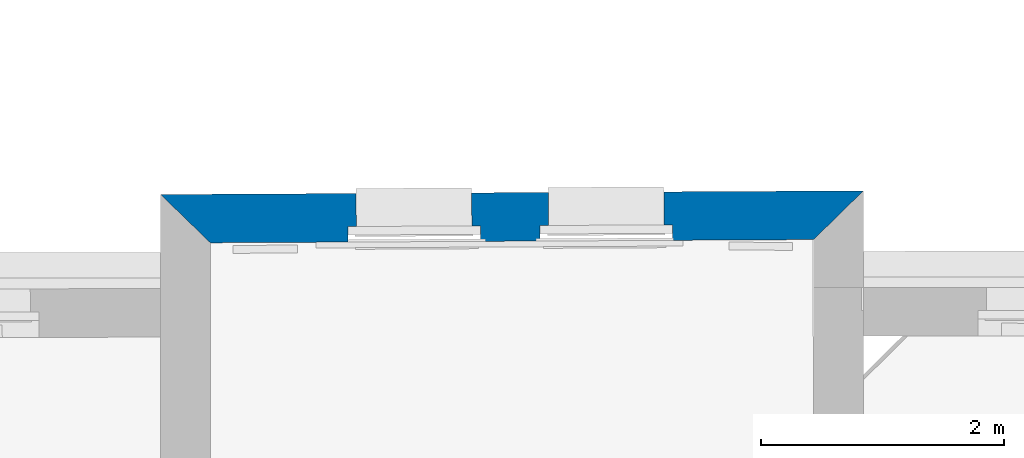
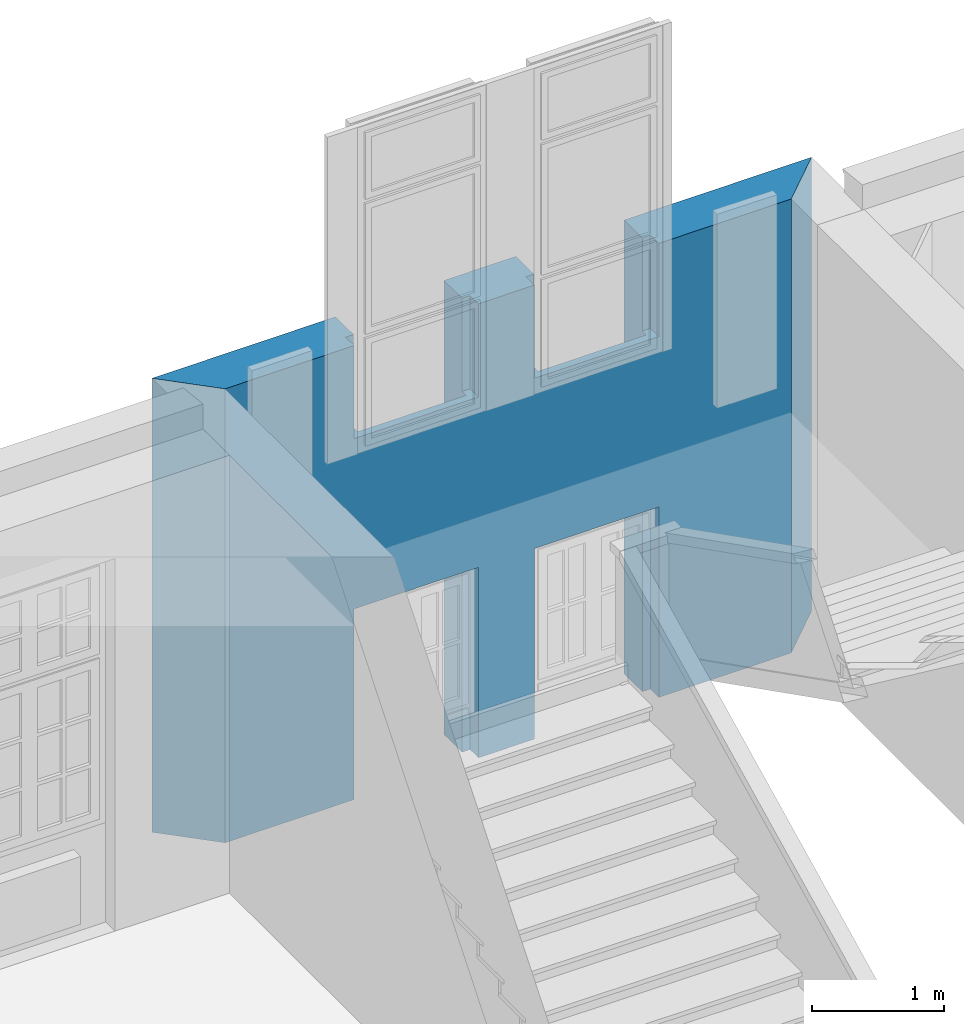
# One storey, part 19 of 90: 1 wall, 6 openings.
"""IFC2X3 building model written with IfcOpenShell, lengths in metres."""

from ifc_helpers import new_model, entity, si_unit, converted_unit, derived_unit, money_unit, direction, frame, origin_with_axes, origin_2d_with_axis, place, context, subcontext, project, spatial, polyline, rectangle, outline, extrude, material, layer, layer_set, layer_usage, type_object, element, save


model = new_model("IFC2X3")

# Units and contexts
model_context = context("Model", 3, precision=1e-05, world=origin_with_axes(), true_north=direction((0.0, 1.0)))
body_context = subcontext(model_context, "Body", "Model", "MODEL_VIEW")
ifc_project = project(units=[si_unit("LENGTHUNIT", "METRE"), si_unit("AREAUNIT", "SQUARE_METRE"), si_unit("VOLUMEUNIT", "CUBIC_METRE"), converted_unit("PLANEANGLEUNIT", "DEGREE", entity("IfcPlaneAngleMeasure", 0.0174532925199), si_unit("PLANEANGLEUNIT", "RADIAN"), dimensions=[0, 0, 0, 0, 0, 0, 0]), money_unit("EUR"), converted_unit("TIMEUNIT", "Year", entity("IfcTimeMeasure", 31556926.0), si_unit("TIMEUNIT", "SECOND"), dimensions=[0, 0, 1, 0, 0, 0, 0]), si_unit("MASSUNIT", "GRAM", prefix="KILO"), si_unit("THERMODYNAMICTEMPERATUREUNIT", "DEGREE_CELSIUS"), si_unit("LUMINOUSINTENSITYUNIT", "LUMEN"), si_unit("ENERGYUNIT", "JOULE", prefix="MEGA"), derived_unit("THERMALCONDUCTANCEUNIT", [(si_unit("POWERUNIT", "WATT"), 1), (si_unit("LENGTHUNIT", "METRE"), -1), (si_unit("THERMODYNAMICTEMPERATUREUNIT", "KELVIN"), -1)]), derived_unit("SPECIFICHEATCAPACITYUNIT", [(si_unit("ENERGYUNIT", "JOULE"), 1), (si_unit("MASSUNIT", "GRAM", prefix="KILO"), -1), (si_unit("THERMODYNAMICTEMPERATUREUNIT", "KELVIN"), -1)]), derived_unit("MASSDENSITYUNIT", [(si_unit("MASSUNIT", "GRAM", prefix="KILO"), 1), (si_unit("VOLUMEUNIT", "CUBIC_METRE"), -1)])], contexts=[model_context])

# Site, building, storey
site_placement = place(None, origin_with_axes())
site = spatial("IfcSite", under=ifc_project, at=site_placement, Name="Gelände", CompositionType="ELEMENT")
building_placement = place(site_placement, origin_with_axes())
building = spatial("IfcBuilding", under=site, at=building_placement, Name="Gebäude", CompositionType="ELEMENT")
storey_placement = place(building_placement, frame((0.0, 0.0, 3.7), z_axis=(0.0, 0.0, 1.0), x_axis=(1.0, 0.0, 0.0)))
storey = spatial("IfcBuildingStorey", under=building, at=storey_placement, Name="1.OBERGESCHOSS", CompositionType="ELEMENT", Elevation=3.7)

# Wall, openings
ifc_material = material(Name="05_ALLGEMEIN - TRAGENDE BAUTEILE")
ifc_layer = layer(ifc_material, 0.4, ventilated="UNKNOWN")
ifc_layer_set = layer_set([ifc_layer], Name="05_ALLGEMEIN - TRAGENDE BAUTEILE 0.4")
ifc_layer_usage = layer_usage(ifc_layer_set, "AXIS2", "NEGATIVE", 0.4)
wall_type = type_object("IfcWallType", Name="05_ALLGEMEIN - TRAGENDE BAUTEILE 400", PredefinedType="ELEMENTEDWALL")
wall_placement = place(storey_placement, frame((-4.46199488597, 26.8591208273, -0.1), z_axis=(0.0, 0.0, 1.0), x_axis=(-0.999985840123, -0.00532161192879, 0.0)))
wall = element("IfcWallStandardCase", 1, at=wall_placement, inside=storey, type_object=wall_type, material=ifc_layer_usage, Name="Wand-030", ObjectType="ELEMENTEDWALL", context=body_context, shape_type="SweptSolid", body=[
    extrude(outline(polyline([(0.0, 0.0), (5.79028000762, 0.0), (5.38236542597, 0.4), (0.412311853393, 0.4), (0.0, 0.0)])), origin_with_axes(), (0.0, 0.0, 1.0), 4.2),
])
opening_1_placement = place(wall_placement, frame((2.12064882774, 0.0, -0.736811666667), z_axis=(0.0, 0.0, 1.0), x_axis=(1.0, 0.0, 0.0)))
element("IfcOpeningElement", 2, at=opening_1_placement, cuts=wall, Name="Fenster-015", context=body_context, shape_type="SweptSolid", body=[
    extrude(rectangle(XDim=0.951478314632, YDim=2.429223, at=origin_2d_with_axis()), frame((0.0, 0.271902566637, 1.2146115), z_axis=(0.0, 1.0, 0.0), x_axis=(1.0, 0.0, 0.0)), (0.0, 0.0, -1.0), 0.671902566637),
    extrude(rectangle(XDim=1.09147831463, YDim=2.499223, at=origin_2d_with_axis()), frame((0.0, 0.271902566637, 1.2496115), z_axis=(0.0, -1.0, 0.0), x_axis=(1.0, 0.0, 0.0)), (0.0, 0.0, -1.0), 0.528097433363),
    extrude(rectangle(XDim=0.951478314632, YDim=0.233945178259, at=origin_2d_with_axis()), frame((0.0, 0.332944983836, -0.116972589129), z_axis=(0.0, 1.0, 0.0), x_axis=(1.0, 0.0, 0.0)), (0.0, 0.0, -1.0), 0.461042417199),
])
opening_2_placement = place(wall_placement, frame((3.70345295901, 0.0, -0.736811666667), z_axis=(0.0, 0.0, 1.0), x_axis=(1.0, 0.0, 0.0)))
element("IfcOpeningElement", 3, at=opening_2_placement, cuts=wall, Name="Fenster-015", context=body_context, shape_type="SweptSolid", body=[
    extrude(rectangle(XDim=0.951478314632, YDim=2.429223, at=origin_2d_with_axis()), frame((0.0, 0.271902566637, 1.2146115), z_axis=(0.0, 1.0, 0.0), x_axis=(1.0, 0.0, 0.0)), (0.0, 0.0, -1.0), 0.671902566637),
    extrude(rectangle(XDim=1.09147831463, YDim=2.499223, at=origin_2d_with_axis()), frame((0.0, 0.271902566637, 1.2496115), z_axis=(0.0, -1.0, 0.0), x_axis=(1.0, 0.0, 0.0)), (0.0, 0.0, -1.0), 0.528097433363),
    extrude(rectangle(XDim=0.951478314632, YDim=0.233945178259, at=origin_2d_with_axis()), frame((0.0, 0.332944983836, -0.116972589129), z_axis=(0.0, 1.0, 0.0), x_axis=(1.0, 0.0, 0.0)), (0.0, 0.0, -1.0), 0.461042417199),
])
opening_3_placement = place(wall_placement, frame((2.12088798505, 0.0, 3.33786933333), z_axis=(0.0, 0.0, 1.0), x_axis=(1.0, 0.0, 0.0)))
element("IfcOpeningElement", 4, at=opening_3_placement, cuts=wall, Name="Fenster-015", context=body_context, shape_type="SweptSolid", body=[
    extrude(rectangle(XDim=0.951, YDim=2.808879, at=origin_2d_with_axis()), frame((0.0, 0.271902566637, 1.4044395), z_axis=(0.0, -1.0, 0.0), x_axis=(-1.0, 0.0, 0.0)), (0.0, 0.0, 1.0), 0.671902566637),
    extrude(rectangle(XDim=1.091, YDim=2.878879, at=origin_2d_with_axis()), frame((0.0, 0.271902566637, 1.4394395), z_axis=(0.0, 1.0, 0.0), x_axis=(-1.0, 0.0, 0.0)), (0.0, 0.0, 1.0), 0.528097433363),
    extrude(rectangle(XDim=0.951, YDim=0.233945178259, at=origin_2d_with_axis()), frame((0.0, 0.332944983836, -0.116972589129), z_axis=(0.0, -1.0, 0.0), x_axis=(-1.0, 0.0, 0.0)), (0.0, 0.0, 1.0), 0.461042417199),
])
opening_4_placement = place(wall_placement, frame((3.70369211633, 0.0, 3.33786933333), z_axis=(0.0, 0.0, 1.0), x_axis=(1.0, 0.0, 0.0)))
element("IfcOpeningElement", 5, at=opening_4_placement, cuts=wall, Name="Fenster-015", context=body_context, shape_type="SweptSolid", body=[
    extrude(rectangle(XDim=0.951, YDim=2.808879, at=origin_2d_with_axis()), frame((0.0, 0.271902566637, 1.4044395), z_axis=(0.0, -1.0, 0.0), x_axis=(-1.0, 0.0, 0.0)), (0.0, 0.0, 1.0), 0.671902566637),
    extrude(rectangle(XDim=1.091, YDim=2.878879, at=origin_2d_with_axis()), frame((0.0, 0.271902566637, 1.4394395), z_axis=(0.0, 1.0, 0.0), x_axis=(-1.0, 0.0, 0.0)), (0.0, 0.0, 1.0), 0.528097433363),
    extrude(rectangle(XDim=0.951, YDim=0.233945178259, at=origin_2d_with_axis()), frame((0.0, 0.332944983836, -0.116972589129), z_axis=(0.0, -1.0, 0.0), x_axis=(-1.0, 0.0, 0.0)), (0.0, 0.0, 1.0), 0.461042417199),
])
opening_5_placement = place(wall_placement, frame((2.12064882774, 0.0, 1.69241133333), z_axis=(0.0, 0.0, 1.0), x_axis=(1.0, 0.0, 0.0)))
element("IfcOpeningElement", 6, at=opening_5_placement, cuts=wall, Name="Fenster-015", ObjectType="Recess", context=body_context, shape_type="SweptSolid", body=[
    extrude(rectangle(XDim=0.951478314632, YDim=1.41151282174, at=origin_2d_with_axis()), frame((0.0, 0.11528824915, 0.705756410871), z_axis=(0.0, -1.0, 0.0), x_axis=(-1.0, 0.0, 0.0)), (0.0, 0.0, 1.0), 0.51528824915),
])
opening_6_placement = place(wall_placement, frame((3.70345295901, 0.0, 1.69241133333), z_axis=(0.0, 0.0, 1.0), x_axis=(1.0, 0.0, 0.0)))
element("IfcOpeningElement", 7, at=opening_6_placement, cuts=wall, Name="Fenster-015", ObjectType="Recess", context=body_context, shape_type="SweptSolid", body=[
    extrude(rectangle(XDim=0.951478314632, YDim=1.41151282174, at=origin_2d_with_axis()), frame((0.0, 0.11528824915, 0.705756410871), z_axis=(0.0, -1.0, 0.0), x_axis=(-1.0, 0.0, 0.0)), (0.0, 0.0, 1.0), 0.51528824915),
])

save(model, "model.ifc")
